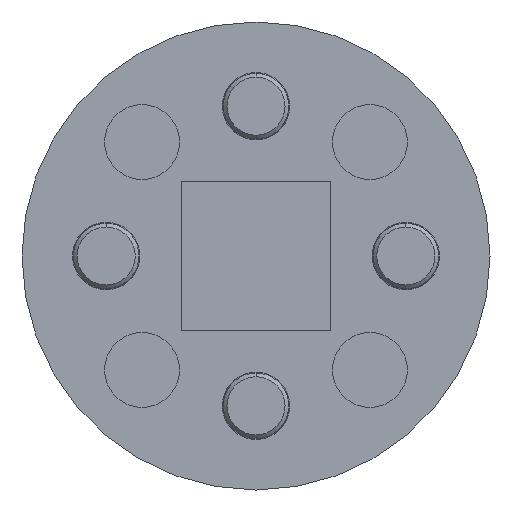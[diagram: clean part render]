
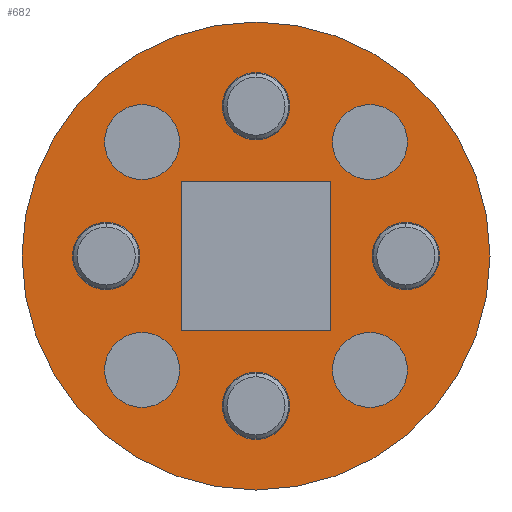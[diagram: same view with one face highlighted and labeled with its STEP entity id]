
A CAD part, front view. The second image highlights one B-rep face of the part: STEP entity #682.
In plain terms, the highlighted planar face has unit normal (0, -1, 0).
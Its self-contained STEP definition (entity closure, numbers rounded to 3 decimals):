
#6=CARTESIAN_POINT('',(0.,-1.,0.));
#7=DIRECTION('',(0.,1.,0.));
#8=DIRECTION('',(1.,0.,0.));
#9=AXIS2_PLACEMENT_3D('',#6,#7,#8);
#11=CARTESIAN_POINT('',(0.,-1.,0.));
#12=DIRECTION('',(0.,1.,0.));
#13=DIRECTION('',(-1.,0.,0.));
#14=AXIS2_PLACEMENT_3D('',#11,#12,#13);
#16=CARTESIAN_POINT('',(0.,-1.,4.));
#17=DIRECTION('',(0.,-1.,0.));
#18=DIRECTION('',(-1.,0.,0.));
#19=AXIS2_PLACEMENT_3D('',#16,#17,#18);
#21=CARTESIAN_POINT('',(0.,-1.,4.));
#22=DIRECTION('',(0.,-1.,0.));
#23=DIRECTION('',(1.,0.,0.));
#24=AXIS2_PLACEMENT_3D('',#21,#22,#23);
#26=CARTESIAN_POINT('',(0.,-1.,-4.));
#27=DIRECTION('',(0.,-1.,0.));
#28=DIRECTION('',(1.,0.,0.));
#29=AXIS2_PLACEMENT_3D('',#26,#27,#28);
#31=CARTESIAN_POINT('',(0.,-1.,-4.));
#32=DIRECTION('',(0.,-1.,0.));
#33=DIRECTION('',(-1.,0.,0.));
#34=AXIS2_PLACEMENT_3D('',#31,#32,#33);
#36=CARTESIAN_POINT('',(-4.,-1.,0.));
#37=DIRECTION('',(0.,-1.,0.));
#38=DIRECTION('',(0.,0.,1.));
#39=AXIS2_PLACEMENT_3D('',#36,#37,#38);
#41=CARTESIAN_POINT('',(-4.,-1.,0.));
#42=DIRECTION('',(0.,-1.,0.));
#43=DIRECTION('',(-1.,0.,0.));
#44=AXIS2_PLACEMENT_3D('',#41,#42,#43);
#46=CARTESIAN_POINT('',(-4.,-1.,0.));
#47=DIRECTION('',(0.,-1.,0.));
#48=DIRECTION('',(0.,0.,-1.));
#49=AXIS2_PLACEMENT_3D('',#46,#47,#48);
#51=CARTESIAN_POINT('',(-4.,-1.,0.));
#52=DIRECTION('',(0.,-1.,0.));
#53=DIRECTION('',(1.,0.,0.));
#54=AXIS2_PLACEMENT_3D('',#51,#52,#53);
#56=CARTESIAN_POINT('',(4.,-1.,0.));
#57=DIRECTION('',(0.,-1.,0.));
#58=DIRECTION('',(0.,0.,-1.));
#59=AXIS2_PLACEMENT_3D('',#56,#57,#58);
#61=CARTESIAN_POINT('',(4.,-1.,0.));
#62=DIRECTION('',(0.,-1.,0.));
#63=DIRECTION('',(1.,0.,0.));
#64=AXIS2_PLACEMENT_3D('',#61,#62,#63);
#66=CARTESIAN_POINT('',(4.,-1.,0.));
#67=DIRECTION('',(0.,-1.,0.));
#68=DIRECTION('',(0.,0.,1.));
#69=AXIS2_PLACEMENT_3D('',#66,#67,#68);
#71=CARTESIAN_POINT('',(4.,-1.,0.));
#72=DIRECTION('',(0.,-1.,0.));
#73=DIRECTION('',(-1.,0.,0.));
#74=AXIS2_PLACEMENT_3D('',#71,#72,#73);
#76=CARTESIAN_POINT('',(-3.043,-1.,3.043));
#77=DIRECTION('',(0.,-1.,0.));
#78=DIRECTION('',(1.,0.,0.));
#79=AXIS2_PLACEMENT_3D('',#76,#77,#78);
#81=CARTESIAN_POINT('',(-3.043,-1.,3.043));
#82=DIRECTION('',(0.,-1.,0.));
#83=DIRECTION('',(-1.,0.,0.));
#84=AXIS2_PLACEMENT_3D('',#81,#82,#83);
#86=CARTESIAN_POINT('',(3.043,-1.,3.043));
#87=DIRECTION('',(0.,-1.,0.));
#88=DIRECTION('',(1.,0.,0.));
#89=AXIS2_PLACEMENT_3D('',#86,#87,#88);
#91=CARTESIAN_POINT('',(3.043,-1.,3.043));
#92=DIRECTION('',(0.,-1.,0.));
#93=DIRECTION('',(-1.,0.,0.));
#94=AXIS2_PLACEMENT_3D('',#91,#92,#93);
#96=CARTESIAN_POINT('',(3.043,-1.,-3.043));
#97=DIRECTION('',(0.,-1.,0.));
#98=DIRECTION('',(1.,0.,0.));
#99=AXIS2_PLACEMENT_3D('',#96,#97,#98);
#101=CARTESIAN_POINT('',(3.043,-1.,-3.043));
#102=DIRECTION('',(0.,-1.,0.));
#103=DIRECTION('',(-1.,0.,0.));
#104=AXIS2_PLACEMENT_3D('',#101,#102,#103);
#106=CARTESIAN_POINT('',(-3.043,-1.,-3.043));
#107=DIRECTION('',(0.,-1.,0.));
#108=DIRECTION('',(1.,0.,0.));
#109=AXIS2_PLACEMENT_3D('',#106,#107,#108);
#111=CARTESIAN_POINT('',(-3.043,-1.,-3.043));
#112=DIRECTION('',(0.,-1.,0.));
#113=DIRECTION('',(-1.,0.,0.));
#114=AXIS2_PLACEMENT_3D('',#111,#112,#113);
#338=DIRECTION('',(0.,0.,1.));
#339=VECTOR('',#338,4.);
#340=CARTESIAN_POINT('',(-2.,-1.,-2.));
#341=LINE('',#340,#339);
#346=DIRECTION('',(1.,0.,0.));
#347=VECTOR('',#346,4.);
#348=CARTESIAN_POINT('',(-2.,-1.,2.));
#349=LINE('',#348,#347);
#354=DIRECTION('',(0.,0.,-1.));
#355=VECTOR('',#354,4.);
#356=CARTESIAN_POINT('',(2.,-1.,2.));
#357=LINE('',#356,#355);
#362=DIRECTION('',(-1.,0.,0.));
#363=VECTOR('',#362,4.);
#364=CARTESIAN_POINT('',(2.,-1.,-2.));
#365=LINE('',#364,#363);
#454=CARTESIAN_POINT('',(6.25,-1.,0.));
#455=CARTESIAN_POINT('',(-6.25,-1.,0.));
#456=VERTEX_POINT('',#454);
#457=VERTEX_POINT('',#455);
#462=CARTESIAN_POINT('',(-0.9,-1.,4.));
#463=CARTESIAN_POINT('',(0.9,-1.,4.));
#464=VERTEX_POINT('',#462);
#465=VERTEX_POINT('',#463);
#466=CARTESIAN_POINT('',(0.9,-1.,-4.));
#467=CARTESIAN_POINT('',(-0.9,-1.,-4.));
#468=VERTEX_POINT('',#466);
#469=VERTEX_POINT('',#467);
#470=CARTESIAN_POINT('',(-4.9,-1.,0.));
#471=CARTESIAN_POINT('',(-4.,-1.,-0.9));
#472=VERTEX_POINT('',#470);
#473=VERTEX_POINT('',#471);
#474=CARTESIAN_POINT('',(-4.,-1.,0.9));
#475=VERTEX_POINT('',#474);
#476=CARTESIAN_POINT('',(-3.1,-1.,0.));
#477=VERTEX_POINT('',#476);
#478=CARTESIAN_POINT('',(4.9,-1.,0.));
#479=CARTESIAN_POINT('',(4.,-1.,0.9));
#480=VERTEX_POINT('',#478);
#481=VERTEX_POINT('',#479);
#482=CARTESIAN_POINT('',(4.,-1.,-0.9));
#483=VERTEX_POINT('',#482);
#484=CARTESIAN_POINT('',(3.1,-1.,0.));
#485=VERTEX_POINT('',#484);
#486=CARTESIAN_POINT('',(-2.,-1.,-2.));
#487=CARTESIAN_POINT('',(-2.,-1.,2.));
#488=VERTEX_POINT('',#486);
#489=VERTEX_POINT('',#487);
#490=CARTESIAN_POINT('',(2.,-1.,-2.));
#491=VERTEX_POINT('',#490);
#492=CARTESIAN_POINT('',(2.,-1.,2.));
#493=VERTEX_POINT('',#492);
#494=CARTESIAN_POINT('',(-2.043,-1.,3.043));
#495=CARTESIAN_POINT('',(-4.043,-1.,3.043));
#496=VERTEX_POINT('',#494);
#497=VERTEX_POINT('',#495);
#498=CARTESIAN_POINT('',(4.043,-1.,3.043));
#499=CARTESIAN_POINT('',(2.043,-1.,3.043));
#500=VERTEX_POINT('',#498);
#501=VERTEX_POINT('',#499);
#502=CARTESIAN_POINT('',(4.043,-1.,-3.043));
#503=CARTESIAN_POINT('',(2.043,-1.,-3.043));
#504=VERTEX_POINT('',#502);
#505=VERTEX_POINT('',#503);
#506=CARTESIAN_POINT('',(-2.043,-1.,-3.043));
#507=CARTESIAN_POINT('',(-4.043,-1.,-3.043));
#508=VERTEX_POINT('',#506);
#509=VERTEX_POINT('',#507);
#606=CARTESIAN_POINT('',(0.,-1.,0.));
#607=DIRECTION('',(0.,1.,0.));
#608=DIRECTION('',(-1.,0.,0.));
#609=AXIS2_PLACEMENT_3D('',#606,#607,#608);
#610=PLANE('',#609);
#611=ORIENTED_EDGE('',*,*,#595,.T.);
#613=ORIENTED_EDGE('',*,*,#612,.T.);
#614=EDGE_LOOP('',(#611,#613));
#615=FACE_OUTER_BOUND('',#614,.F.);
#617=ORIENTED_EDGE('',*,*,#616,.T.);
#619=ORIENTED_EDGE('',*,*,#618,.T.);
#620=EDGE_LOOP('',(#617,#619));
#621=FACE_BOUND('',#620,.F.);
#623=ORIENTED_EDGE('',*,*,#622,.T.);
#625=ORIENTED_EDGE('',*,*,#624,.T.);
#626=EDGE_LOOP('',(#623,#625));
#627=FACE_BOUND('',#626,.F.);
#629=ORIENTED_EDGE('',*,*,#628,.T.);
#631=ORIENTED_EDGE('',*,*,#630,.T.);
#633=ORIENTED_EDGE('',*,*,#632,.T.);
#635=ORIENTED_EDGE('',*,*,#634,.T.);
#636=EDGE_LOOP('',(#629,#631,#633,#635));
#637=FACE_BOUND('',#636,.F.);
#639=ORIENTED_EDGE('',*,*,#638,.T.);
#641=ORIENTED_EDGE('',*,*,#640,.T.);
#643=ORIENTED_EDGE('',*,*,#642,.T.);
#645=ORIENTED_EDGE('',*,*,#644,.T.);
#646=EDGE_LOOP('',(#639,#641,#643,#645));
#647=FACE_BOUND('',#646,.F.);
#649=ORIENTED_EDGE('',*,*,#648,.F.);
#651=ORIENTED_EDGE('',*,*,#650,.F.);
#653=ORIENTED_EDGE('',*,*,#652,.F.);
#655=ORIENTED_EDGE('',*,*,#654,.F.);
#656=EDGE_LOOP('',(#649,#651,#653,#655));
#657=FACE_BOUND('',#656,.F.);
#659=ORIENTED_EDGE('',*,*,#658,.T.);
#661=ORIENTED_EDGE('',*,*,#660,.T.);
#662=EDGE_LOOP('',(#659,#661));
#663=FACE_BOUND('',#662,.F.);
#665=ORIENTED_EDGE('',*,*,#664,.T.);
#667=ORIENTED_EDGE('',*,*,#666,.T.);
#668=EDGE_LOOP('',(#665,#667));
#669=FACE_BOUND('',#668,.F.);
#671=ORIENTED_EDGE('',*,*,#670,.T.);
#673=ORIENTED_EDGE('',*,*,#672,.T.);
#674=EDGE_LOOP('',(#671,#673));
#675=FACE_BOUND('',#674,.F.);
#677=ORIENTED_EDGE('',*,*,#676,.T.);
#679=ORIENTED_EDGE('',*,*,#678,.T.);
#680=EDGE_LOOP('',(#677,#679));
#681=FACE_BOUND('',#680,.F.);
#682=ADVANCED_FACE('',(#615,#621,#627,#637,#647,#657,#663,#669,#675,#681),#610,
.F.);
#10=CIRCLE('',#9,6.25);
#15=CIRCLE('',#14,6.25);
#20=CIRCLE('',#19,0.9);
#25=CIRCLE('',#24,0.9);
#30=CIRCLE('',#29,0.9);
#35=CIRCLE('',#34,0.9);
#40=CIRCLE('',#39,0.9);
#45=CIRCLE('',#44,0.9);
#50=CIRCLE('',#49,0.9);
#55=CIRCLE('',#54,0.9);
#60=CIRCLE('',#59,0.9);
#65=CIRCLE('',#64,0.9);
#70=CIRCLE('',#69,0.9);
#75=CIRCLE('',#74,0.9);
#80=CIRCLE('',#79,1.);
#85=CIRCLE('',#84,1.);
#90=CIRCLE('',#89,1.);
#95=CIRCLE('',#94,1.);
#100=CIRCLE('',#99,1.);
#105=CIRCLE('',#104,1.);
#110=CIRCLE('',#109,1.);
#115=CIRCLE('',#114,1.);
#595=EDGE_CURVE('',#456,#457,#10,.T.);
#612=EDGE_CURVE('',#457,#456,#15,.T.);
#616=EDGE_CURVE('',#464,#465,#20,.T.);
#618=EDGE_CURVE('',#465,#464,#25,.T.);
#622=EDGE_CURVE('',#468,#469,#30,.T.);
#624=EDGE_CURVE('',#469,#468,#35,.T.);
#628=EDGE_CURVE('',#475,#472,#40,.T.);
#630=EDGE_CURVE('',#472,#473,#45,.T.);
#632=EDGE_CURVE('',#473,#477,#50,.T.);
#634=EDGE_CURVE('',#477,#475,#55,.T.);
#638=EDGE_CURVE('',#483,#480,#60,.T.);
#640=EDGE_CURVE('',#480,#481,#65,.T.);
#642=EDGE_CURVE('',#481,#485,#70,.T.);
#644=EDGE_CURVE('',#485,#483,#75,.T.);
#648=EDGE_CURVE('',#488,#489,#341,.T.);
#650=EDGE_CURVE('',#491,#488,#365,.T.);
#652=EDGE_CURVE('',#493,#491,#357,.T.);
#654=EDGE_CURVE('',#489,#493,#349,.T.);
#658=EDGE_CURVE('',#496,#497,#80,.T.);
#660=EDGE_CURVE('',#497,#496,#85,.T.);
#664=EDGE_CURVE('',#500,#501,#90,.T.);
#666=EDGE_CURVE('',#501,#500,#95,.T.);
#670=EDGE_CURVE('',#504,#505,#100,.T.);
#672=EDGE_CURVE('',#505,#504,#105,.T.);
#676=EDGE_CURVE('',#508,#509,#110,.T.);
#678=EDGE_CURVE('',#509,#508,#115,.T.);
